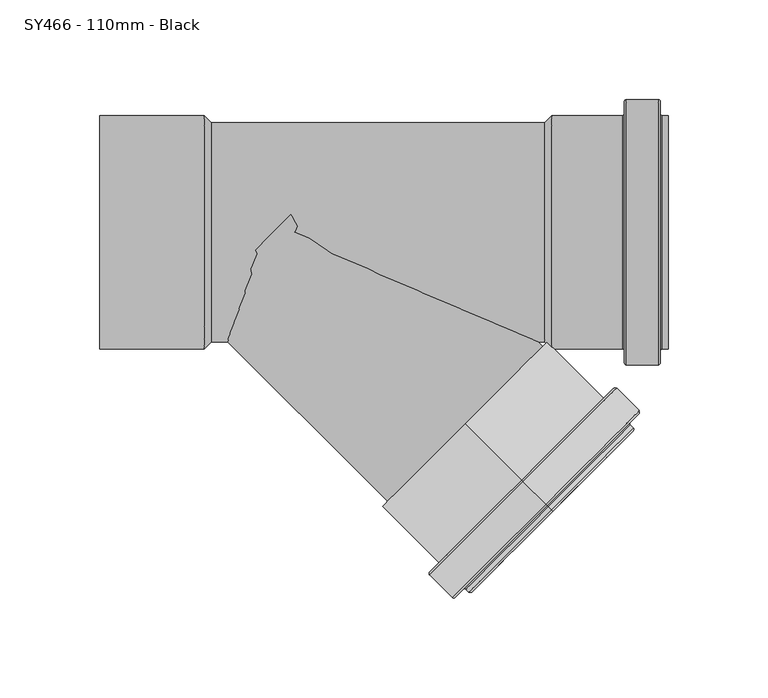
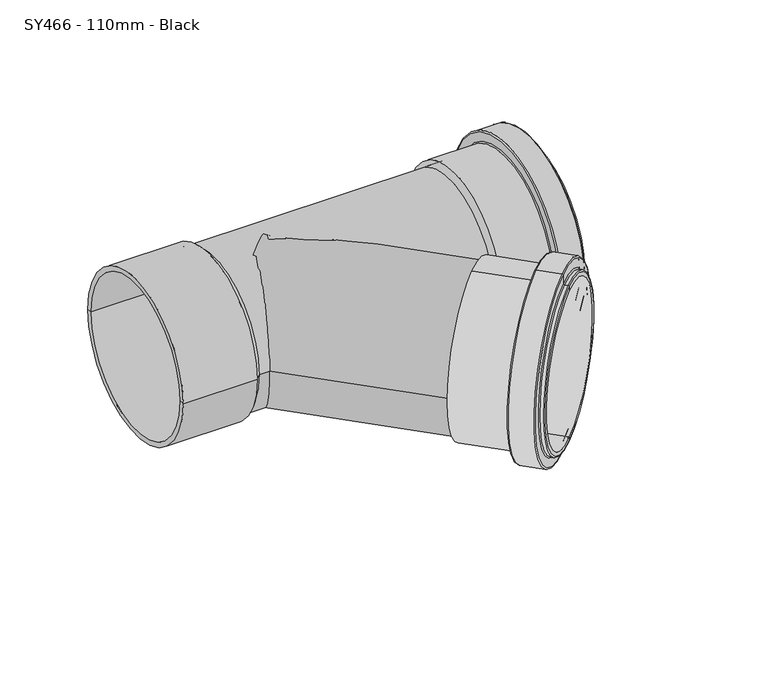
"""IFC4 building model written with IfcOpenShell, lengths in millimetres: pipe fitting geometry, MarleyPlumbingAndDrainage_PipeFitting_EqualBranch45PushFit : SY466 - 110mm - Black."""

from ifc_helpers import new_model, si_unit, point, frame, origin, place, context, project, spatial, polyline, circle_curve, ellipse_curve, trimmed, source, transform, mapped, element, save
from ifc_brep_helpers import plane_surface, cylinder_surface, revolved_surface, advanced_brep


def sy466_110mm_black_24140348(model_context):
    return source(origin(), model_context, "Body", "AdvancedBrep", [
        advanced_brep(
        [(-101.8253818, -58.5, 0.0), (-101.8253818, 58.5, 0.0), (-49.3253818, 58.5, 0.0), (-49.3253818, -58.5, 0.0), (-101.8253818, -55.0, 0.0), (-101.8253818, 55.0, 0.0), (-49.3253818, -55.0, 0.0), (-49.3253818, 55.0, 0.0), (-49.3253818, 0.0, 0.0), (-45.8253818, -55.0, 0.0), (-45.8253818, 55.0, 0.0), (-45.8253818, 0.0, 0.0)],
        [
            (0, 1, circle_curve(frame((-101.8253818, 0.0, 0.0), z_axis=(1.0, 0.0, 0.0), x_axis=(0.0, 1.0, 0.0)), 58.5)),
            (1, 2),
            (2, 3, circle_curve(frame((-49.3253818, 0.0, 0.0), z_axis=(-1.0, 0.0, 0.0), x_axis=(0.0, 1.0, 0.0)), 58.5)),
            (3, 0),
            (1, 0, circle_curve(frame((-101.8253818, 0.0, 0.0), z_axis=(1.0, 0.0, 0.0), x_axis=(0.0, 1.0, 0.0)), 58.5)),
            (3, 2, circle_curve(frame((-49.3253818, 0.0, 0.0), z_axis=(-1.0, 0.0, 0.0), x_axis=(0.0, 1.0, 0.0)), 58.5)),
            (4, 5, circle_curve(frame((-101.8253818, 0.0, 0.0), z_axis=(1.0, 0.0, 0.0), x_axis=(0.0, 1.0, 0.0)), 55.0)),
            (5, 1),
            (0, 4),
            (5, 4, circle_curve(frame((-101.8253818, 0.0, 0.0), z_axis=(1.0, 0.0, 0.0), x_axis=(0.0, 1.0, 0.0)), 55.0)),
            (6, 7, circle_curve(frame((-49.3253818, 0.0, 0.0), z_axis=(1.0, 0.0, 0.0), x_axis=(0.0, 1.0, 0.0)), 55.0)),
            (7, 5),
            (4, 6),
            (7, 6, circle_curve(frame((-49.3253818, 0.0, 0.0), z_axis=(1.0, 0.0, 0.0), x_axis=(0.0, 1.0, 0.0)), 55.0)),
            (8, 7),
            (6, 8),
            (9, 10, circle_curve(frame((-45.8253818, 0.0, 0.0), z_axis=(1.0, 0.0, 0.0), x_axis=(0.0, 1.0, 0.0)), 55.0)),
            (10, 11),
            (11, 9),
            (10, 9, circle_curve(frame((-45.8253818, 0.0, 0.0), z_axis=(1.0, 0.0, 0.0), x_axis=(0.0, 1.0, 0.0)), 55.0)),
            (2, 10),
            (9, 3),
        ],
        [
            cylinder_surface(frame((2035.7414062, 0.0, 0.0), z_axis=(-1.0, 0.0, 0.0), x_axis=(0.0, 1.0, 0.0)), 58.5),
            plane_surface(frame((-101.8253818, 0.0, 0.0), z_axis=(-1.0, 0.0, 0.0), x_axis=(0.0, 1.0, 0.0))),
            revolved_surface(polyline([(-101.82538180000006, 55.0, 0.0), (-49.32538180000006, 55.0, 0.0)]), (2035.7414062, 0.0, 0.0), (-1.0, 0.0, 0.0)),
            plane_surface(frame((-49.3253818, 0.0, 0.0), z_axis=(-1.0, 0.0, 0.0), x_axis=(0.0, 1.0, 0.0))),
            plane_surface(frame((-45.8253818, 0.0, 0.0), z_axis=(1.0, 0.0, 0.0), x_axis=(0.0, 1.0, 0.0))),
            revolved_surface(polyline([(-45.8253818, 55.0, 0.0), (-49.3253818, 58.5, 0.0)]), (2035.7414062, 0.0, 0.0), (-1.0, 0.0, 0.0)),
        ],
        [
            (0, [[1, 2, 3, 4]]),
            (0, [[5, -4, 6, -2]]),
            (1, [[7, 8, -1, 9]]),
            (1, [[10, -9, -5, -8]]),
            (2, [[11, 12, -7, 13]]),
            (2, [[14, -13, -10, -12]]),
            (3, [[15, -11, 16]]),
            (3, [[-16, -14, -15]]),
            (4, [[17, 18, 19]]),
            (4, [[20, -19, -18]]),
            (5, [[-3, 21, -17, 22]]),
            (5, [[-6, -22, -20, -21]]),
        ],
    ),
        advanced_brep(
        [(81.3411404, -96.1665222, -58.5), (81.3411404, -96.1665222, 58.5), (81.3411404, -96.1665222, 55.0), (81.3411404, -96.1665222, -55.0), (109.6254117, -124.4507935, -58.5), (109.6254117, -124.4507935, 58.5), (109.6254117, -124.4507935, -65.5), (109.6254117, -124.4507935, 65.5), (121.6462269, -136.4716088, -66.5), (121.6462269, -136.4716088, 66.5), (110.3325184, -125.1579003, 66.5), (110.3325184, -125.1579003, -66.5), (122.3533337, -137.1787156, -59.5), (122.3533337, -137.1787156, 59.5), (122.3533337, -137.1787156, 65.5), (122.3533337, -137.1787156, -65.5), (124.4746541, -139.3000359, -58.5), (124.4746541, -139.3000359, 58.5), (123.0604405, -137.8858223, 58.5), (123.0604405, -137.8858223, -58.5), (125.1817609, -140.0071427, -55.0), (125.1817609, -140.0071427, 55.0), (125.1817609, -140.0071427, 57.5), (125.1817609, -140.0071427, -57.5)],
        [
            (0, 1, circle_curve(frame((81.3411404, -96.1665222, 0.0), z_axis=(-0.7071067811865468, 0.7071067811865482, 0.0), x_axis=(0.0, 0.0, 1.0000000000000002)), 58.5)),
            (1, 2),
            (2, 3, circle_curve(frame((81.3411404, -96.1665222, 0.0), z_axis=(0.7071067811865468, -0.7071067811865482, 0.0), x_axis=(0.0, 0.0, 1.0000000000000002)), 55.0)),
            (3, 0),
            (1, 0, circle_curve(frame((81.3411404, -96.1665222, 0.0), z_axis=(-0.7071067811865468, 0.7071067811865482, 0.0), x_axis=(0.0, 0.0, 1.0000000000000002)), 58.5)),
            (3, 2, circle_curve(frame((81.3411404, -96.1665222, 0.0), z_axis=(0.7071067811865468, -0.7071067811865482, 0.0), x_axis=(0.0, 0.0, 1.0000000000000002)), 55.0)),
            (4, 5, circle_curve(frame((109.6254117, -124.4507935, 0.0), z_axis=(-0.7071067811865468, 0.7071067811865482, 0.0), x_axis=(0.0, 0.0, 1.0000000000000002)), 58.5)),
            (5, 1),
            (0, 4),
            (5, 4, circle_curve(frame((109.6254117, -124.4507935, 0.0), z_axis=(-0.7071067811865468, 0.7071067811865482, 0.0), x_axis=(0.0, 0.0, 1.0000000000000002)), 58.5)),
            (6, 7, circle_curve(frame((109.6254117, -124.4507935, 0.0), z_axis=(-0.7071067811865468, 0.7071067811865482, 0.0), x_axis=(0.0, 0.0, 1.0000000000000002)), 65.5)),
            (7, 5),
            (4, 6),
            (7, 6, circle_curve(frame((109.6254117, -124.4507935, 0.0), z_axis=(-0.7071067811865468, 0.7071067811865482, 0.0), x_axis=(0.0, 0.0, 1.0000000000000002)), 65.5)),
            (8, 9, circle_curve(frame((121.6462269, -136.4716088, 0.0), z_axis=(-0.7071067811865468, 0.7071067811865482, 0.0), x_axis=(0.0, 0.0, 1.0000000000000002)), 66.5)),
            (9, 10),
            (10, 11, circle_curve(frame((110.3325184, -125.1579003, 0.0), z_axis=(0.7071067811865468, -0.7071067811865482, 0.0), x_axis=(0.0, 0.0, 1.0000000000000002)), 66.5)),
            (11, 8),
            (9, 8, circle_curve(frame((121.6462269, -136.4716088, 0.0), z_axis=(-0.7071067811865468, 0.7071067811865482, 0.0), x_axis=(0.0, 0.0, 1.0000000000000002)), 66.5)),
            (11, 10, circle_curve(frame((110.3325184, -125.1579003, 0.0), z_axis=(0.7071067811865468, -0.7071067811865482, 0.0), x_axis=(0.0, 0.0, 1.0000000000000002)), 66.5)),
            (12, 13, circle_curve(frame((122.3533337, -137.1787156, 0.0), z_axis=(-0.7071067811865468, 0.7071067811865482, 0.0), x_axis=(0.0, 0.0, 1.0000000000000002)), 59.5)),
            (13, 14),
            (14, 15, circle_curve(frame((122.3533337, -137.1787156, 0.0), z_axis=(0.7071067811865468, -0.7071067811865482, 0.0), x_axis=(0.0, 0.0, 1.0000000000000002)), 65.5)),
            (15, 12),
            (13, 12, circle_curve(frame((122.3533337, -137.1787156, 0.0), z_axis=(-0.7071067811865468, 0.7071067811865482, 0.0), x_axis=(0.0, 0.0, 1.0000000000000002)), 59.5)),
            (15, 14, circle_curve(frame((122.3533337, -137.1787156, 0.0), z_axis=(0.7071067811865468, -0.7071067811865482, 0.0), x_axis=(0.0, 0.0, 1.0000000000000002)), 65.5)),
            (16, 17, circle_curve(frame((124.4746541, -139.3000359, 0.0), z_axis=(-0.7071067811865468, 0.7071067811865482, 0.0), x_axis=(0.0, 0.0, 1.0000000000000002)), 58.5)),
            (17, 18),
            (18, 19, circle_curve(frame((123.0604405, -137.8858223, 0.0), z_axis=(0.7071067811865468, -0.7071067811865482, 0.0), x_axis=(0.0, 0.0, 1.0000000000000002)), 58.5)),
            (19, 16),
            (17, 16, circle_curve(frame((124.4746541, -139.3000359, 0.0), z_axis=(-0.7071067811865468, 0.7071067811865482, 0.0), x_axis=(0.0, 0.0, 1.0000000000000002)), 58.5)),
            (19, 18, circle_curve(frame((123.0604405, -137.8858223, 0.0), z_axis=(0.7071067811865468, -0.7071067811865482, 0.0), x_axis=(0.0, 0.0, 1.0000000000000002)), 58.5)),
            (20, 21, circle_curve(frame((125.1817609, -140.0071427, 0.0), z_axis=(-0.7071067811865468, 0.7071067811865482, 0.0), x_axis=(0.0, 0.0, 1.0000000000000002)), 55.0)),
            (21, 22),
            (22, 23, circle_curve(frame((125.1817609, -140.0071427, 0.0), z_axis=(0.7071067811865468, -0.7071067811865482, 0.0), x_axis=(0.0, 0.0, 1.0000000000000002)), 57.5)),
            (23, 20),
            (21, 20, circle_curve(frame((125.1817609, -140.0071427, 0.0), z_axis=(-0.7071067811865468, 0.7071067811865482, 0.0), x_axis=(0.0, 0.0, 1.0000000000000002)), 55.0)),
            (23, 22, circle_curve(frame((125.1817609, -140.0071427, 0.0), z_axis=(0.7071067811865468, -0.7071067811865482, 0.0), x_axis=(0.0, 0.0, 1.0000000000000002)), 57.5)),
            (2, 21),
            (20, 3),
            (10, 7, circle_curve(frame((110.3325184, -125.1579003, 65.5), z_axis=(-0.7071067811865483, -0.7071067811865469, 0.0), x_axis=(0.49999999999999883, -0.49999999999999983, 0.7071067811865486)), 1.0)),
            (6, 11, circle_curve(frame((110.3325184, -125.1579003, -65.5), z_axis=(-0.7071067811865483, -0.7071067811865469, 0.0), x_axis=(0.5000000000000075, -0.5000000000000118, -0.7071067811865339)), 1.0)),
            (14, 9, circle_curve(frame((121.6462269, -136.4716088, 65.5), z_axis=(-0.7071067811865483, -0.7071067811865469, 0.0), x_axis=(0.49999999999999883, -0.49999999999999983, 0.7071067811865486)), 1.0)),
            (8, 15, circle_curve(frame((121.6462269, -136.4716088, -65.5), z_axis=(-0.7071067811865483, -0.7071067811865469, 0.0), x_axis=(0.5000000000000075, -0.5000000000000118, -0.7071067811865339)), 1.0)),
            (18, 13, circle_curve(frame((123.0604405, -137.8858223, 59.5), z_axis=(0.7071067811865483, 0.7071067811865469, 0.0), x_axis=(0.49999999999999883, -0.49999999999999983, 0.7071067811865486)), 1.0)),
            (12, 19, circle_curve(frame((123.0604405, -137.8858223, -59.5), z_axis=(0.7071067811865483, 0.7071067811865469, 0.0), x_axis=(0.5000000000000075, -0.5000000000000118, -0.7071067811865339)), 1.0)),
            (22, 17, circle_curve(frame((124.4746541, -139.3000359, 57.5), z_axis=(-0.7071067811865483, -0.7071067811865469, 0.0), x_axis=(0.49999999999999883, -0.49999999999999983, 0.7071067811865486)), 1.0)),
            (16, 23, circle_curve(frame((124.4746541, -139.3000359, -57.5), z_axis=(-0.7071067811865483, -0.7071067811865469, 0.0), x_axis=(0.5000000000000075, -0.5000000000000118, -0.7071067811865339)), 1.0)),
        ],
        [
            plane_surface(frame((81.3411404, -96.1665222, 0.0), z_axis=(-0.7071067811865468, 0.7071067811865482, 0.0), x_axis=(0.0, 0.0, 1.0))),
            cylinder_surface(frame((159.8299931, -174.655375, 0.0), z_axis=(0.7071067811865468, -0.7071067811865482, 0.0), x_axis=(0.0, 0.0, 1.0000000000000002)), 58.5),
            plane_surface(frame((109.6254117, -124.4507935, 0.0), z_axis=(-0.7071067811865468, 0.7071067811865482, 0.0), x_axis=(0.0, 0.0, 1.0))),
            cylinder_surface(frame((159.8299931, -174.655375, 0.0), z_axis=(0.7071067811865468, -0.7071067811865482, 0.0), x_axis=(0.0, 0.0, 1.0000000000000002)), 66.5),
            plane_surface(frame((122.3533337, -137.1787156, 0.0), z_axis=(0.7071067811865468, -0.7071067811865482, 0.0), x_axis=(0.0, 0.0, 1.0))),
            plane_surface(frame((125.1817609, -140.0071427, 0.0), z_axis=(0.7071067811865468, -0.7071067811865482, 0.0), x_axis=(0.0, 0.0, 1.0))),
            revolved_surface(polyline([(125.18176085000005, -140.00714274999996, 55.000000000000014), (81.34114035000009, -96.16652224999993, 55.000000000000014)]), (159.8299931, -174.655375, 0.0), (0.7071067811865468, -0.7071067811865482, 0.0)),
            revolved_surface(trimmed(ellipse_curve(frame((110.3325184, -125.1579003, 65.5), z_axis=(0.7071067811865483, 0.7071067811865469, 0.0), x_axis=(0.49999999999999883, -0.49999999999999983, 0.7071067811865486)), 1.0, 1.0), [point((109.6254117, -124.4507935, 65.5))], [point((110.3325184, -125.1579003, 66.5))], True, "CARTESIAN"), (159.8299931, -174.655375, 0.0), (0.7071067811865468, -0.7071067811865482, 0.0)),
            revolved_surface(trimmed(ellipse_curve(frame((110.3325184, -125.1579003, 65.5), z_axis=(0.7071067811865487, 0.7071067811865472, 0.0), x_axis=(0.49999999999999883, -0.49999999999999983, 0.7071067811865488)), 1.0, 1.0), [point((109.6254117, -124.4507935, 65.5))], [point((110.3325184, -125.1579003, 66.5))], True, "CARTESIAN"), (159.8299931, -174.655375, 0.0), (0.7071067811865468, -0.7071067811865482, 0.0)),
            revolved_surface(trimmed(ellipse_curve(frame((121.6462269, -136.4716088, 65.5), z_axis=(0.7071067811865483, 0.7071067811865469, 0.0), x_axis=(0.49999999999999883, -0.49999999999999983, 0.7071067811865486)), 1.0, 1.0), [point((121.6462269, -136.4716088, 66.5))], [point((122.3533337, -137.1787156, 65.5))], True, "CARTESIAN"), (159.8299931, -174.655375, 0.0), (0.7071067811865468, -0.7071067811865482, 0.0)),
            revolved_surface(trimmed(ellipse_curve(frame((121.6462269, -136.4716088, 65.5), z_axis=(0.7071067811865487, 0.7071067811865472, 0.0), x_axis=(0.49999999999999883, -0.49999999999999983, 0.7071067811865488)), 1.0, 1.0), [point((121.6462269, -136.4716088, 66.5))], [point((122.3533337, -137.1787156, 65.5))], True, "CARTESIAN"), (159.8299931, -174.655375, 0.0), (0.7071067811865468, -0.7071067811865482, 0.0)),
            revolved_surface(trimmed(ellipse_curve(frame((123.0604405, -137.8858223, 59.5), z_axis=(-0.7071067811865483, -0.7071067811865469, 0.0), x_axis=(0.49999999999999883, -0.49999999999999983, 0.7071067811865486)), 1.0, 1.0), [point((122.3533337, -137.1787156, 59.5))], [point((123.0604405, -137.8858223, 58.5))], True, "CARTESIAN"), (159.8299931, -174.655375, 0.0), (0.7071067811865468, -0.7071067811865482, 0.0)),
            revolved_surface(trimmed(ellipse_curve(frame((123.0604405, -137.8858223, 59.5), z_axis=(-0.7071067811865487, -0.7071067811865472, 0.0), x_axis=(0.49999999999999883, -0.49999999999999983, 0.7071067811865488)), 1.0, 1.0), [point((122.3533337, -137.1787156, 59.5))], [point((123.0604405, -137.8858223, 58.5))], True, "CARTESIAN"), (159.8299931, -174.655375, 0.0), (0.7071067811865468, -0.7071067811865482, 0.0)),
            revolved_surface(trimmed(ellipse_curve(frame((124.4746541, -139.3000359, 57.5), z_axis=(0.7071067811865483, 0.7071067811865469, 0.0), x_axis=(0.49999999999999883, -0.49999999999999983, 0.7071067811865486)), 1.0, 1.0), [point((124.4746541, -139.3000359, 58.5))], [point((125.1817609, -140.0071427, 57.5))], True, "CARTESIAN"), (159.8299931, -174.655375, 0.0), (0.7071067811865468, -0.7071067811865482, 0.0)),
            revolved_surface(trimmed(ellipse_curve(frame((124.4746541, -139.3000359, 57.5), z_axis=(0.7071067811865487, 0.7071067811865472, 0.0), x_axis=(0.49999999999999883, -0.49999999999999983, 0.7071067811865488)), 1.0, 1.0), [point((124.4746541, -139.3000359, 58.5))], [point((125.1817609, -140.0071427, 57.5))], True, "CARTESIAN"), (159.8299931, -174.655375, 0.0), (0.7071067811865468, -0.7071067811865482, 0.0)),
        ],
        [
            (0, [[1, 2, 3, 4]]),
            (0, [[5, -4, 6, -2]]),
            (1, [[7, 8, -1, 9]]),
            (1, [[10, -9, -5, -8]]),
            (2, [[11, 12, -7, 13]]),
            (2, [[14, -13, -10, -12]]),
            (3, [[15, 16, 17, 18]]),
            (3, [[19, -18, 20, -16]]),
            (4, [[21, 22, 23, 24]]),
            (4, [[25, -24, 26, -22]]),
            (1, [[27, 28, 29, 30]]),
            (1, [[31, -30, 32, -28]]),
            (5, [[33, 34, 35, 36]]),
            (5, [[37, -36, 38, -34]]),
            (6, [[-3, 39, -33, 40]]),
            (6, [[-6, -40, -37, -39]]),
            (7, [[-17, 41, -11, 42]]),
            (8, [[-20, -42, -14, -41]]),
            (9, [[-23, 43, -15, 44]]),
            (10, [[-26, -44, -19, -43]]),
            (11, [[-29, 45, -21, 46]]),
            (12, [[-32, -46, -25, -45]]),
            (13, [[-35, 47, -27, 48]]),
            (14, [[-38, -48, -31, -47]]),
        ],
    ),
        advanced_brep(
        [(-45.8253818, -31.0, 33.2114438), (24.0654911, 38.890873, 0.0), (-45.8253818, -31.0, -33.2114438), (-45.8253818, -31.0, 0.0), (42.4502675, -135.0573952, 0.0), (120.2320134, -57.2756493, 0.0), (-45.8253818, -46.7817459, 0.0)],
        [
            (0, 1, circle_curve(frame((-14.8253818, 0.0, 0.0), z_axis=(-0.7071067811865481, 0.7071067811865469, 0.0), x_axis=(0.7071067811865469, 0.7071067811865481, 0.0)), 55.0)),
            (1, 2, circle_curve(frame((-14.8253818, 0.0, 0.0), z_axis=(-0.7071067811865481, 0.7071067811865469, 0.0), x_axis=(0.7071067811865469, 0.7071067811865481, 0.0)), 55.0)),
            (2, 3),
            (3, 0),
            (4, 5, circle_curve(frame((81.3411404, -96.1665222, 0.0), z_axis=(0.7071067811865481, -0.7071067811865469, 0.0), x_axis=(0.7071067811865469, 0.7071067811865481, 0.0)), 55.0)),
            (5, 4, circle_curve(frame((81.3411404, -96.1665222, 0.0), z_axis=(0.7071067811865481, -0.7071067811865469, 0.0), x_axis=(0.7071067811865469, 0.7071067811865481, 0.0)), 55.0)),
            (5, 1),
            (0, 6, ellipse_curve(frame((-45.8253818, 31.0, 0.0), z_axis=(1.0, 0.0, 0.0), x_axis=(0.0, 1.0, 0.0)), 77.7817459, 55.0)),
            (6, 4),
            (6, 2, ellipse_curve(frame((-45.8253818, 31.0, 0.0), z_axis=(1.0, 0.0, 0.0), x_axis=(0.0, 1.0, 0.0)), 77.7817459, 55.0)),
            (6, 3),
        ],
        [
            plane_surface(frame((-14.8253818, 0.0, 0.0), z_axis=(-0.7071067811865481, 0.7071067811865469, 0.0), x_axis=(0.0, 0.0, 1.0))),
            plane_surface(frame((81.3411404, -96.1665222, 0.0), z_axis=(0.7071067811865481, -0.7071067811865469, 0.0), x_axis=(0.0, 0.0, 1.0))),
            cylinder_surface(frame((-14.8253818, 0.0, 0.0), z_axis=(-0.7071067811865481, 0.7071067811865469, 0.0), x_axis=(0.7071067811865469, 0.7071067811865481, 0.0)), 55.0),
            plane_surface(frame((-45.8253818, 0.0, 0.0), z_axis=(-1.0, 0.0, 0.0), x_axis=(0.0, 1.0, 0.0))),
        ],
        [
            (0, [[1, 2, 3, 4]]),
            (1, [[5, 6]]),
            (2, [[-6, 7, -1, 8, 9]]),
            (2, [[-5, -9, 10, -2, -7]]),
            (3, [[11, -3, -10]]),
            (3, [[-11, -8, -4]]),
        ],
    ),
        advanced_brep(
        [(180.1746182, -58.5, 0.0), (180.1746182, 58.5, 0.0), (183.1746182, 58.5, 0.0), (183.1746182, -58.5, 0.0), (179.1746182, -65.5, 0.0), (179.1746182, 65.5, 0.0), (179.1746182, 59.5, 0.0), (179.1746182, -59.5, 0.0), (162.1746182, -66.5, 0.0), (162.1746182, 66.5, 0.0), (178.1746182, 66.5, 0.0), (178.1746182, -66.5, 0.0), (161.1746182, -59.5, 0.0), (161.1746182, 59.5, 0.0), (161.1746182, 65.5, 0.0), (161.1746182, -65.5, 0.0), (124.6746182, -58.5, 0.0), (124.6746182, 58.5, 0.0), (160.1746182, 58.5, 0.0), (160.1746182, -58.5, 0.0), (121.1746182, -55.0, 0.0), (121.1746182, 55.0, 0.0), (-49.3253818, -55.0, 0.0), (-49.3253818, 55.0, 0.0), (-49.3253818, 0.0, 0.0), (124.6746182, -55.0, 0.0), (124.6746182, 55.0, 0.0), (124.6746182, 0.0, 0.0), (183.1746182, -55.0, 0.0), (183.1746182, 55.0, 0.0)],
        [
            (0, 1, circle_curve(frame((180.1746182, 0.0, 0.0), z_axis=(1.0, 0.0, 0.0), x_axis=(0.0, 1.0, 0.0)), 58.5)),
            (1, 2),
            (2, 3, circle_curve(frame((183.1746182, 0.0, 0.0), z_axis=(-1.0, 0.0, 0.0), x_axis=(0.0, 1.0, 0.0)), 58.5)),
            (3, 0),
            (1, 0, circle_curve(frame((180.1746182, 0.0, 0.0), z_axis=(1.0, 0.0, 0.0), x_axis=(0.0, 1.0, 0.0)), 58.5)),
            (3, 2, circle_curve(frame((183.1746182, 0.0, 0.0), z_axis=(-1.0, 0.0, 0.0), x_axis=(0.0, 1.0, 0.0)), 58.5)),
            (4, 5, circle_curve(frame((179.1746182, 0.0, 0.0), z_axis=(1.0, 0.0, 0.0), x_axis=(0.0, 1.0, 0.0)), 65.5)),
            (5, 6),
            (6, 7, circle_curve(frame((179.1746182, 0.0, 0.0), z_axis=(-1.0, 0.0, 0.0), x_axis=(0.0, 1.0, 0.0)), 59.5)),
            (7, 4),
            (5, 4, circle_curve(frame((179.1746182, 0.0, 0.0), z_axis=(1.0, 0.0, 0.0), x_axis=(0.0, 1.0, 0.0)), 65.5)),
            (7, 6, circle_curve(frame((179.1746182, 0.0, 0.0), z_axis=(-1.0, 0.0, 0.0), x_axis=(0.0, 1.0, 0.0)), 59.5)),
            (8, 9, circle_curve(frame((162.1746182, 0.0, 0.0), z_axis=(1.0, 0.0, 0.0), x_axis=(0.0, 1.0, 0.0)), 66.5)),
            (9, 10),
            (10, 11, circle_curve(frame((178.1746182, 0.0, 0.0), z_axis=(-1.0, 0.0, 0.0), x_axis=(0.0, 1.0, 0.0)), 66.5)),
            (11, 8),
            (9, 8, circle_curve(frame((162.1746182, 0.0, 0.0), z_axis=(1.0, 0.0, 0.0), x_axis=(0.0, 1.0, 0.0)), 66.5)),
            (11, 10, circle_curve(frame((178.1746182, 0.0, 0.0), z_axis=(-1.0, 0.0, 0.0), x_axis=(0.0, 1.0, 0.0)), 66.5)),
            (12, 13, circle_curve(frame((161.1746182, 0.0, 0.0), z_axis=(1.0, 0.0, 0.0), x_axis=(0.0, 1.0, 0.0)), 59.5)),
            (13, 14),
            (14, 15, circle_curve(frame((161.1746182, 0.0, 0.0), z_axis=(-1.0, 0.0, 0.0), x_axis=(0.0, 1.0, 0.0)), 65.5)),
            (15, 12),
            (13, 12, circle_curve(frame((161.1746182, 0.0, 0.0), z_axis=(1.0, 0.0, 0.0), x_axis=(0.0, 1.0, 0.0)), 59.5)),
            (15, 14, circle_curve(frame((161.1746182, 0.0, 0.0), z_axis=(-1.0, 0.0, 0.0), x_axis=(0.0, 1.0, 0.0)), 65.5)),
            (16, 17, circle_curve(frame((124.6746182, 0.0, 0.0), z_axis=(1.0, 0.0, 0.0), x_axis=(0.0, 1.0, 0.0)), 58.5)),
            (17, 18),
            (18, 19, circle_curve(frame((160.1746182, 0.0, 0.0), z_axis=(-1.0, 0.0, 0.0), x_axis=(0.0, 1.0, 0.0)), 58.5)),
            (19, 16),
            (17, 16, circle_curve(frame((124.6746182, 0.0, 0.0), z_axis=(1.0, 0.0, 0.0), x_axis=(0.0, 1.0, 0.0)), 58.5)),
            (19, 18, circle_curve(frame((160.1746182, 0.0, 0.0), z_axis=(-1.0, 0.0, 0.0), x_axis=(0.0, 1.0, 0.0)), 58.5)),
            (20, 21, circle_curve(frame((121.1746182, 0.0, 0.0), z_axis=(1.0, 0.0, 0.0), x_axis=(0.0, 1.0, 0.0)), 55.0)),
            (21, 17),
            (16, 20),
            (21, 20, circle_curve(frame((121.1746182, 0.0, 0.0), z_axis=(1.0, 0.0, 0.0), x_axis=(0.0, 1.0, 0.0)), 55.0)),
            (22, 23, circle_curve(frame((-49.3253818, 0.0, 0.0), z_axis=(1.0, 0.0, 0.0), x_axis=(0.0, 1.0, 0.0)), 55.0)),
            (23, 21),
            (20, 22),
            (23, 22, circle_curve(frame((-49.3253818, 0.0, 0.0), z_axis=(1.0, 0.0, 0.0), x_axis=(0.0, 1.0, 0.0)), 55.0)),
            (24, 23),
            (22, 24),
            (25, 26, circle_curve(frame((124.6746182, 0.0, 0.0), z_axis=(1.0, 0.0, 0.0), x_axis=(0.0, 1.0, 0.0)), 55.0)),
            (26, 27),
            (27, 25),
            (26, 25, circle_curve(frame((124.6746182, 0.0, 0.0), z_axis=(1.0, 0.0, 0.0), x_axis=(0.0, 1.0, 0.0)), 55.0)),
            (28, 29, circle_curve(frame((183.1746182, 0.0, 0.0), z_axis=(1.0, 0.0, 0.0), x_axis=(0.0, 1.0, 0.0)), 55.0)),
            (29, 26),
            (25, 28),
            (29, 28, circle_curve(frame((183.1746182, 0.0, 0.0), z_axis=(1.0, 0.0, 0.0), x_axis=(0.0, 1.0, 0.0)), 55.0)),
            (2, 29),
            (28, 3),
            (6, 1, circle_curve(frame((180.1746182, 59.5, 0.0), z_axis=(0.0, 0.0, 1.0), x_axis=(1.0, 0.0, 0.0)), 1.0)),
            (0, 7, circle_curve(frame((180.1746182, -59.5, 0.0), z_axis=(0.0, 0.0, 1.0), x_axis=(1.0, 0.0, 0.0)), 1.0)),
            (10, 5, circle_curve(frame((178.1746182, 65.5, 0.0), z_axis=(0.0, 0.0, -1.0), x_axis=(1.0, 0.0, 0.0)), 1.0)),
            (4, 11, circle_curve(frame((178.1746182, -65.5, 0.0), z_axis=(0.0, 0.0, -1.0), x_axis=(1.0, 0.0, 0.0)), 1.0)),
            (14, 9, circle_curve(frame((162.1746182, 65.5, 0.0), z_axis=(0.0, 0.0, -1.0), x_axis=(1.0, 0.0, 0.0)), 1.0)),
            (8, 15, circle_curve(frame((162.1746182, -65.5, 0.0), z_axis=(0.0, 0.0, -1.0), x_axis=(1.0, 0.0, 0.0)), 1.0)),
            (18, 13, circle_curve(frame((160.1746182, 59.5, 0.0), z_axis=(0.0, 0.0, 1.0), x_axis=(1.0, 0.0, 0.0)), 1.0)),
            (12, 19, circle_curve(frame((160.1746182, -59.5, 0.0), z_axis=(0.0, 0.0, 1.0), x_axis=(1.0, 0.0, 0.0)), 1.0)),
        ],
        [
            cylinder_surface(frame((1997.0, 0.0, 0.0), z_axis=(-1.0, 0.0, 0.0), x_axis=(0.0, 1.0, 0.0)), 58.5),
            plane_surface(frame((179.1746182, 0.0, 0.0), z_axis=(1.0, 0.0, 0.0), x_axis=(0.0, 1.0, 0.0))),
            cylinder_surface(frame((1997.0, 0.0, 0.0), z_axis=(-1.0, 0.0, 0.0), x_axis=(0.0, 1.0, 0.0)), 66.5),
            plane_surface(frame((161.1746182, 0.0, 0.0), z_axis=(-1.0, 0.0, 0.0), x_axis=(0.0, 1.0, 0.0))),
            revolved_surface(polyline([(124.6746182, 58.5, 0.0), (121.1746182, 55.0, 0.0)]), (1997.0, 0.0, 0.0), (-1.0, 0.0, 0.0)),
            cylinder_surface(frame((1997.0, 0.0, 0.0), z_axis=(-1.0, 0.0, 0.0), x_axis=(0.0, 1.0, 0.0)), 55.0),
            plane_surface(frame((-49.3253818, 0.0, 0.0), z_axis=(-1.0, 0.0, 0.0), x_axis=(0.0, 1.0, 0.0))),
            plane_surface(frame((124.6746182, 0.0, 0.0), z_axis=(1.0, 0.0, 0.0), x_axis=(0.0, 1.0, 0.0))),
            revolved_surface(polyline([(124.67461819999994, 55.0, 0.0), (183.17461819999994, 55.0, 0.0)]), (1997.0, 0.0, 0.0), (-1.0, 0.0, 0.0)),
            plane_surface(frame((183.1746182, 0.0, 0.0), z_axis=(1.0, 0.0, 0.0), x_axis=(0.0, 1.0, 0.0))),
            revolved_surface(trimmed(ellipse_curve(frame((180.1746182, 59.5, 0.0), z_axis=(0.0, 0.0, -1.0), x_axis=(1.0, 0.0, 0.0)), 1.0, 1.0), [point((180.1746182, 58.5, 0.0))], [point((179.1746182, 59.5, 0.0))], True, "CARTESIAN"), (1997.0, 0.0, 0.0), (-1.0, 0.0, 0.0)),
            revolved_surface(trimmed(ellipse_curve(frame((178.1746182, 65.5, 0.0), z_axis=(0.0, 0.0, 1.0), x_axis=(1.0, 0.0, 0.0)), 1.0, 1.0), [point((179.1746182, 65.5, 0.0))], [point((178.1746182, 66.5, 0.0))], True, "CARTESIAN"), (1997.0, 0.0, 0.0), (-1.0, 0.0, 0.0)),
            revolved_surface(trimmed(ellipse_curve(frame((162.1746182, 65.5, 0.0), z_axis=(0.0, 0.0, 1.0), x_axis=(1.0, 0.0, 0.0)), 1.0, 1.0), [point((162.1746182, 66.5, 0.0))], [point((161.1746182, 65.5, 0.0))], True, "CARTESIAN"), (1997.0, 0.0, 0.0), (-1.0, 0.0, 0.0)),
            revolved_surface(trimmed(ellipse_curve(frame((160.1746182, 59.5, 0.0), z_axis=(0.0, 0.0, -1.0), x_axis=(1.0, 0.0, 0.0)), 1.0, 1.0), [point((161.1746182, 59.5, 0.0))], [point((160.1746182, 58.5, 0.0))], True, "CARTESIAN"), (1997.0, 0.0, 0.0), (-1.0, 0.0, 0.0)),
        ],
        [
            (0, [[1, 2, 3, 4]]),
            (0, [[5, -4, 6, -2]]),
            (1, [[7, 8, 9, 10]]),
            (1, [[11, -10, 12, -8]]),
            (2, [[13, 14, 15, 16]]),
            (2, [[17, -16, 18, -14]]),
            (3, [[19, 20, 21, 22]]),
            (3, [[23, -22, 24, -20]]),
            (0, [[25, 26, 27, 28]]),
            (0, [[29, -28, 30, -26]]),
            (4, [[31, 32, -25, 33]]),
            (4, [[34, -33, -29, -32]]),
            (5, [[35, 36, -31, 37]]),
            (5, [[38, -37, -34, -36]]),
            (6, [[39, -35, 40]]),
            (6, [[-40, -38, -39]]),
            (7, [[41, 42, 43]]),
            (7, [[44, -43, -42]]),
            (8, [[45, 46, -41, 47]]),
            (8, [[48, -47, -44, -46]]),
            (9, [[-3, 49, -45, 50]]),
            (9, [[-6, -50, -48, -49]]),
            (10, [[-9, 51, -1, 52]]),
            (10, [[-12, -52, -5, -51]]),
            (11, [[-15, 53, -7, 54]]),
            (11, [[-18, -54, -11, -53]]),
            (12, [[-21, 55, -13, 56]]),
            (12, [[-24, -56, -17, -55]]),
            (13, [[-27, 57, -19, 58]]),
            (13, [[-30, -58, -23, -57]]),
        ],
    ),
    ])


if __name__ == "__main__":
    model = new_model("IFC4")
    model_context = context("Model", 3, world=origin())
    ifc_project = project(units=[si_unit("LENGTHUNIT", "METRE", prefix="MILLI")], contexts=[model_context])
    site = spatial("IfcSite", under=ifc_project)
    building = spatial("IfcBuilding", under=site)
    placement = place(None, origin())
    sy466_110mm_black_shape = sy466_110mm_black_24140348(model_context)
    element("IfcPipeFitting", 1, ObjectType="MarleyPlumbingAndDrainage_PipeFitting_EqualBranch45PushFit : SY466 - 110mm - Black", at=placement, inside=building, context=model_context, shape_type="MappedRepresentation", body=[
        mapped(sy466_110mm_black_shape, transform((0.0, 0.0, 0.0), x_axis=(1.0, 0.0, 0.0), y_axis=(0.0, 1.0, 0.0), z_axis=(0.0, 0.0, 1.0))),
    ])
    save(model, "model.ifc")
